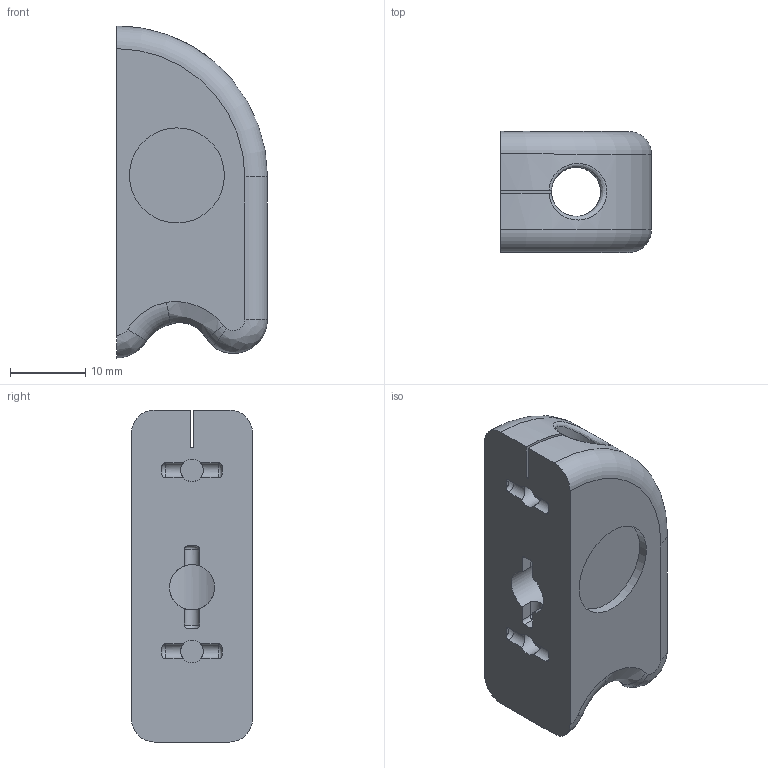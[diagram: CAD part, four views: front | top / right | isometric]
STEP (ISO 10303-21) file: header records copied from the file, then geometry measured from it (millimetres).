
FILE_DESCRIPTION(/* description */ (''),/* implementation_level */ '2;1');
FILE_NAME(/* name */ 'PacMan-R.step',/* time_stamp */ '2023-12-22T18:22:05+08:00',/* author */ (''),/* organization */ (''),/* preprocessor_version */ 'ST-DEVELOPER v20',/* originating_system */ 'Autodesk Translation Framework v12.14.0.127',/* authorisation */ '');
FILE_SCHEMA (('AUTOMOTIVE_DESIGN { 1 0 10303 214 3 1 1 }'));
Length unit declared in the file: millimetre
Products named in the file (2): (Unsaved); Pac Ghost - R
Assembly tree (1 placements, depth 2):
  (Unsaved)
    Pac Ghost - R
Bounding box: 20 x 16 x 44 mm (x, y, z)
Volume: 8203.4 mm3; surface area: 4572.8 mm2
Topology: 1 solids, 1 shells, 85 faces, 223 edges, 142 vertices
Faces by surface type: plane 34, bspline 25, cylinder 22, torus 4
Full cylindrical faces by diameter (mm): 3 x2, 6 x1, 6.5 x1, 11.5 x1, 12.6 x1
Entity records: 3616 total; most frequent: CARTESIAN_POINT 1542, ORIENTED_EDGE 446, DIRECTION 396, EDGE_CURVE 223, AXIS2_PLACEMENT_3D 150, VERTEX_POINT 142, LINE 96, VECTOR 96
